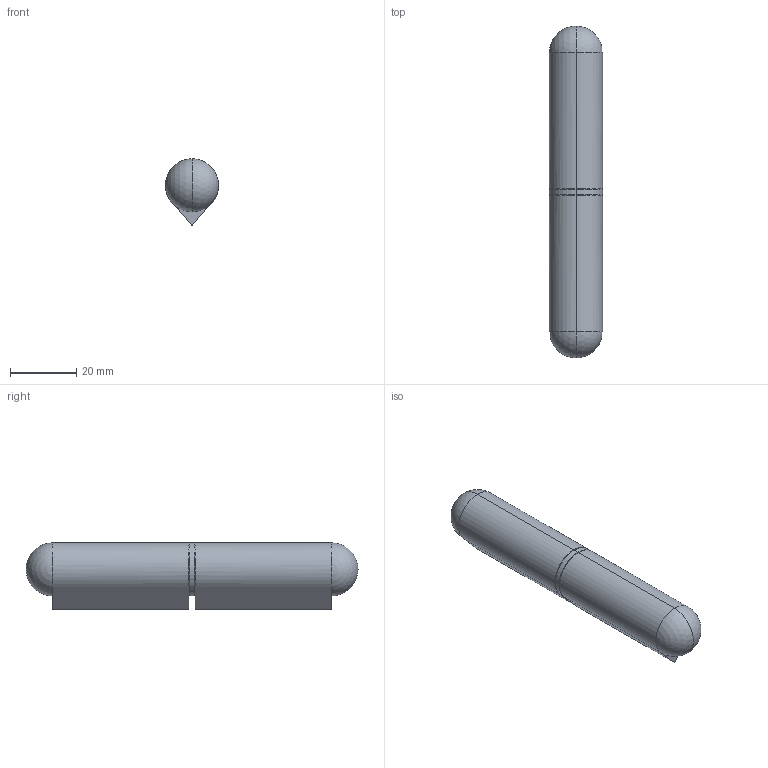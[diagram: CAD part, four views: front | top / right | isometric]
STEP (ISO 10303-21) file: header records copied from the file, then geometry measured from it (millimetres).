
FILE_DESCRIPTION (( 'STEP AP214' ), '1' );
FILE_NAME ('7011.00.100.STEP', '2021-01-21T03:32:25', ( '' ), ( '' ), 'SwSTEP 2.0', 'SolidWorks 2018', '' );
FILE_SCHEMA (( 'AUTOMOTIVE_DESIGN' ));
Length unit declared in the file: millimetre
Products named in the file (4): 7011.00-3_7011.00.100; 7011.00-2_7011.00.100; 7011.00-1_7004.00.100; 7011.00.100
Assembly tree (4 placements, depth 2):
  7011.00.100
    7011.00-1_7004.00.100  x2
    7011.00-2_7011.00.100
    7011.00-3_7011.00.100
Bounding box: 16 x 100 x 20 mm (x, y, z)
Volume: 20256.3 mm3; surface area: 10503.1 mm2
Topology: 4 solids, 4 shells, 45 faces, 104 edges, 63 vertices
Faces by surface type: cylinder 18, plane 13, torus 8, sphere 6
Entity records: 1100 total; most frequent: DIRECTION 188, CARTESIAN_POINT 142, ORIENTED_EDGE 128, AXIS2_PLACEMENT_3D 85, EDGE_CURVE 64, CIRCLE 46, VERTEX_POINT 39, EDGE_LOOP 35
